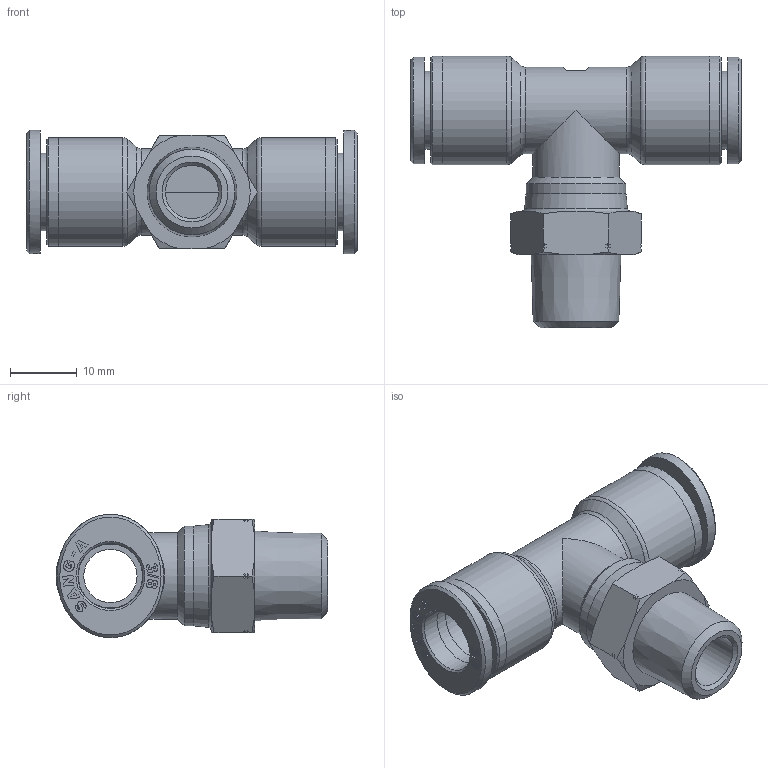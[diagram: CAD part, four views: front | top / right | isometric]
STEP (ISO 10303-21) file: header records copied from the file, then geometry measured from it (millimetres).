
FILE_DESCRIPTION((''),'2;1');
FILE_NAME('C:\Users\user0117\Desktop\김진일\G-FITTING INCH\3-8\G-FITTING INCH (STEP)\GPT 3_8-R02.stp','2020-04-23T15:01:13',('user0117'),(''),'Autodesk Inventor 2013','Autodesk Inventor 2013','');
FILE_SCHEMA(('AUTOMOTIVE_DESIGN { 1 0 10303 214 1 1 1 1 }'));
Length unit declared in the file: millimetre
Products named in the file (6): GPT 3_8-R02; GPL BODY 1-2 R02(BRASS); GPT BODY 3-8(PLASTIC); G-COLLAR 3-8L; COLLAR G3-8L; SLEEVE G3-8
Assembly tree (6 placements, depth 3):
  GPT 3_8-R02
    GPL BODY 1-2 R02(BRASS)
    GPT BODY 3-8(PLASTIC)
    G-COLLAR 3-8L  x2
      COLLAR G3-8L
      SLEEVE G3-8
Bounding box: 49.6 x 40.8 x 18.49 mm (x, y, z)
Volume: 9392.7 mm3; surface area: 8225.4 mm2
Topology: 6 solids, 6 shells, 720 faces, 2004 edges, 1331 vertices
Faces by surface type: plane 563, bspline 74, cone 51, cylinder 27, torus 5
Full cylindrical faces by diameter (mm): 8 x3, 9.75 x6, 11.7 x2, 13 x2, 14.1 x1, 15 x1, 16.3 x4
Entity records: 12930 total; most frequent: CARTESIAN_POINT 3086, ORIENTED_EDGE 2124, DIRECTION 1752, EDGE_CURVE 1062, VECTOR 834, LINE 834, VERTEX_POINT 723, EDGE_LOOP 465
